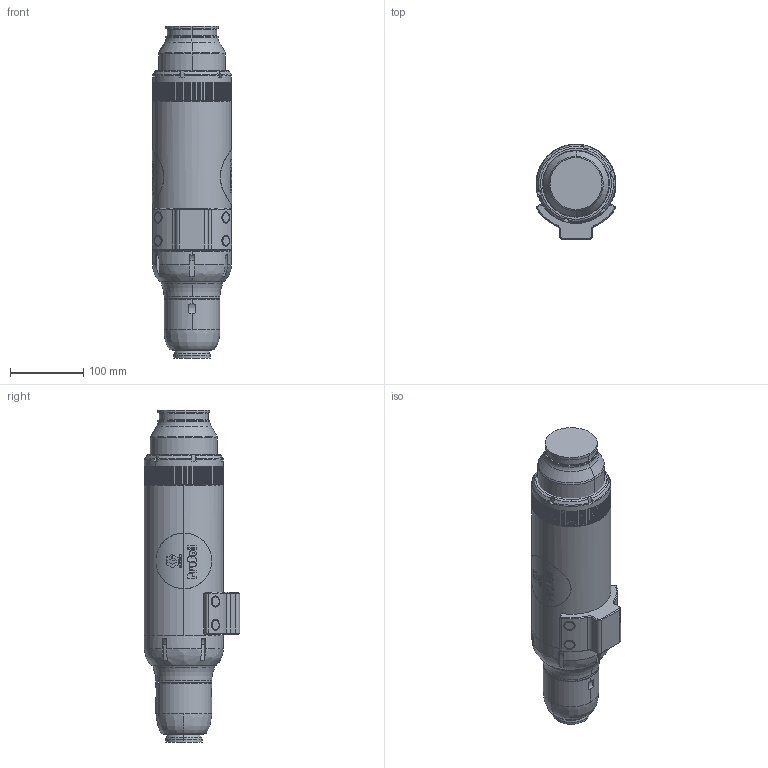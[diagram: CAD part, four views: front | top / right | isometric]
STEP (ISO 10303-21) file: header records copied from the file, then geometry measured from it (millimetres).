
FILE_DESCRIPTION((''),'2;1');
FILE_NAME('R5A148-EN-M_PRT','2023-11-07T14:44:52',('qtmwp1'),(''),'CREO PARAMETRIC BY PTC INC, 2021072','CREO PARAMETRIC BY PTC INC, 2021072','');
FILE_SCHEMA(('CONFIG_CONTROL_DESIGN'));
Length unit declared in the file: inch
Products named in the file (1): R5A148-EN-M_PRT
Bounding box: 109.03 x 130.18 x 453.73 mm (x, y, z)
Surface area: 203172.3 mm2 (no closed solid volume)
Topology: 0 solids, 49 shells, 546 faces, 2569 edges, 2002 vertices
Faces by surface type: plane 307, cylinder 82, cone 74, torus 64, extrusion 15, bspline 2, revolution 2
Entity records: 28126 total; most frequent: CARTESIAN_POINT 9324, DIRECTION 3627, ORIENTED_EDGE 3358, EDGE_CURVE 2569, VERTEX_POINT 2002, AXIS2_PLACEMENT_3D 1211, VECTOR 1203, LINE 1188
